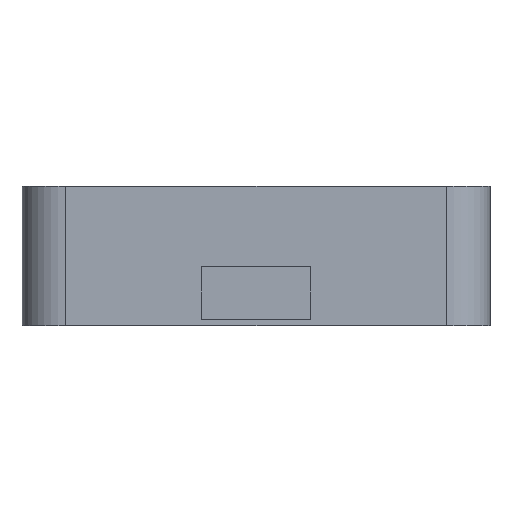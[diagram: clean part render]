
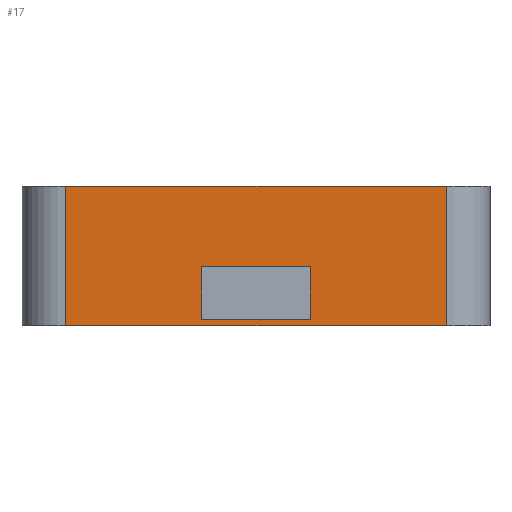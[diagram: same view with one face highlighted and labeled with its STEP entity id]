
A CAD part, left-side view. The second image highlights one B-rep face of the part: STEP entity #17.
In plain terms, the highlighted planar face has unit normal (-1, 0, 0).
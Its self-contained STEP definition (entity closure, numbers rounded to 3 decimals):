
#17 = ADVANCED_FACE('',(#18,#137),#32,.F.);
#18 = FACE_BOUND('',#19,.F.);
#19 = EDGE_LOOP('',(#20,#55,#83,#111));
#20 = ORIENTED_EDGE('',*,*,#21,.F.);
#21 = EDGE_CURVE('',#22,#24,#26,.T.);
#22 = VERTEX_POINT('',#23);
#23 = CARTESIAN_POINT('',(-10.75,-55.25,8.7));
#24 = VERTEX_POINT('',#25);
#25 = CARTESIAN_POINT('',(-10.75,-37.75,8.7));
#26 = SURFACE_CURVE('',#27,(#31,#43),.PCURVE_S1.);
#27 = LINE('',#28,#29);
#28 = CARTESIAN_POINT('',(-10.75,-57.25,8.7));
#29 = VECTOR('',#30,1.);
#30 = DIRECTION('',(0.,1.,0.));
#31 = PCURVE('',#32,#37);
#32 = PLANE('',#33);
#33 = AXIS2_PLACEMENT_3D('',#34,#35,#36);
#34 = CARTESIAN_POINT('',(-10.75,-57.25,2.3));
#35 = DIRECTION('',(1.,0.,0.));
#36 = DIRECTION('',(0.,0.,1.));
#37 = DEFINITIONAL_REPRESENTATION('',(#38),#42);
#38 = LINE('',#39,#40);
#39 = CARTESIAN_POINT('',(6.4,0.));
#40 = VECTOR('',#41,1.);
#41 = DIRECTION('',(0.,-1.));
#42 = ( GEOMETRIC_REPRESENTATION_CONTEXT(2) 
PARAMETRIC_REPRESENTATION_CONTEXT() REPRESENTATION_CONTEXT('2D SPACE',''
  ) );
#43 = PCURVE('',#44,#49);
#44 = PLANE('',#45);
#45 = AXIS2_PLACEMENT_3D('',#46,#47,#48);
#46 = CARTESIAN_POINT('',(-10.75,-57.25,8.7));
#47 = DIRECTION('',(0.,0.,1.));
#48 = DIRECTION('',(1.,0.,0.));
#49 = DEFINITIONAL_REPRESENTATION('',(#50),#54);
#50 = LINE('',#51,#52);
#51 = CARTESIAN_POINT('',(0.,0.));
#52 = VECTOR('',#53,1.);
#53 = DIRECTION('',(0.,1.));
#54 = ( GEOMETRIC_REPRESENTATION_CONTEXT(2) 
PARAMETRIC_REPRESENTATION_CONTEXT() REPRESENTATION_CONTEXT('2D SPACE',''
  ) );
#55 = ORIENTED_EDGE('',*,*,#56,.F.);
#56 = EDGE_CURVE('',#57,#22,#59,.T.);
#57 = VERTEX_POINT('',#58);
#58 = CARTESIAN_POINT('',(-10.75,-55.25,2.3));
#59 = SURFACE_CURVE('',#60,(#64,#71),.PCURVE_S1.);
#60 = LINE('',#61,#62);
#61 = CARTESIAN_POINT('',(-10.75,-55.25,2.3));
#62 = VECTOR('',#63,1.);
#63 = DIRECTION('',(0.,0.,1.));
#64 = PCURVE('',#32,#65);
#65 = DEFINITIONAL_REPRESENTATION('',(#66),#70);
#66 = LINE('',#67,#68);
#67 = CARTESIAN_POINT('',(0.,-2.));
#68 = VECTOR('',#69,1.);
#69 = DIRECTION('',(1.,0.));
#70 = ( GEOMETRIC_REPRESENTATION_CONTEXT(2) 
PARAMETRIC_REPRESENTATION_CONTEXT() REPRESENTATION_CONTEXT('2D SPACE',''
  ) );
#71 = PCURVE('',#72,#77);
#72 = CYLINDRICAL_SURFACE('',#73,2.);
#73 = AXIS2_PLACEMENT_3D('',#74,#75,#76);
#74 = CARTESIAN_POINT('',(-8.75,-55.25,2.3));
#75 = DIRECTION('',(0.,0.,1.));
#76 = DIRECTION('',(-1.,-0.,0.));
#77 = DEFINITIONAL_REPRESENTATION('',(#78),#82);
#78 = LINE('',#79,#80);
#79 = CARTESIAN_POINT('',(0.,0.));
#80 = VECTOR('',#81,1.);
#81 = DIRECTION('',(0.,1.));
#82 = ( GEOMETRIC_REPRESENTATION_CONTEXT(2) 
PARAMETRIC_REPRESENTATION_CONTEXT() REPRESENTATION_CONTEXT('2D SPACE',''
  ) );
#83 = ORIENTED_EDGE('',*,*,#84,.T.);
#84 = EDGE_CURVE('',#57,#85,#87,.T.);
#85 = VERTEX_POINT('',#86);
#86 = CARTESIAN_POINT('',(-10.75,-37.75,2.3));
#87 = SURFACE_CURVE('',#88,(#92,#99),.PCURVE_S1.);
#88 = LINE('',#89,#90);
#89 = CARTESIAN_POINT('',(-10.75,-57.25,2.3));
#90 = VECTOR('',#91,1.);
#91 = DIRECTION('',(0.,1.,0.));
#92 = PCURVE('',#32,#93);
#93 = DEFINITIONAL_REPRESENTATION('',(#94),#98);
#94 = LINE('',#95,#96);
#95 = CARTESIAN_POINT('',(0.,0.));
#96 = VECTOR('',#97,1.);
#97 = DIRECTION('',(0.,-1.));
#98 = ( GEOMETRIC_REPRESENTATION_CONTEXT(2) 
PARAMETRIC_REPRESENTATION_CONTEXT() REPRESENTATION_CONTEXT('2D SPACE',''
  ) );
#99 = PCURVE('',#100,#105);
#100 = PLANE('',#101);
#101 = AXIS2_PLACEMENT_3D('',#102,#103,#104);
#102 = CARTESIAN_POINT('',(-10.75,-57.25,2.3));
#103 = DIRECTION('',(0.,0.,1.));
#104 = DIRECTION('',(1.,0.,0.));
#105 = DEFINITIONAL_REPRESENTATION('',(#106),#110);
#106 = LINE('',#107,#108);
#107 = CARTESIAN_POINT('',(0.,0.));
#108 = VECTOR('',#109,1.);
#109 = DIRECTION('',(0.,1.));
#110 = ( GEOMETRIC_REPRESENTATION_CONTEXT(2) 
PARAMETRIC_REPRESENTATION_CONTEXT() REPRESENTATION_CONTEXT('2D SPACE',''
  ) );
#111 = ORIENTED_EDGE('',*,*,#112,.T.);
#112 = EDGE_CURVE('',#85,#24,#113,.T.);
#113 = SURFACE_CURVE('',#114,(#118,#125),.PCURVE_S1.);
#114 = LINE('',#115,#116);
#115 = CARTESIAN_POINT('',(-10.75,-37.75,2.3));
#116 = VECTOR('',#117,1.);
#117 = DIRECTION('',(0.,0.,1.));
#118 = PCURVE('',#32,#119);
#119 = DEFINITIONAL_REPRESENTATION('',(#120),#124);
#120 = LINE('',#121,#122);
#121 = CARTESIAN_POINT('',(0.,-19.5));
#122 = VECTOR('',#123,1.);
#123 = DIRECTION('',(1.,0.));
#124 = ( GEOMETRIC_REPRESENTATION_CONTEXT(2) 
PARAMETRIC_REPRESENTATION_CONTEXT() REPRESENTATION_CONTEXT('2D SPACE',''
  ) );
#125 = PCURVE('',#126,#131);
#126 = CYLINDRICAL_SURFACE('',#127,2.);
#127 = AXIS2_PLACEMENT_3D('',#128,#129,#130);
#128 = CARTESIAN_POINT('',(-8.75,-37.75,2.3));
#129 = DIRECTION('',(0.,0.,1.));
#130 = DIRECTION('',(-1.,-0.,0.));
#131 = DEFINITIONAL_REPRESENTATION('',(#132),#136);
#132 = LINE('',#133,#134);
#133 = CARTESIAN_POINT('',(-0.,0.));
#134 = VECTOR('',#135,1.);
#135 = DIRECTION('',(-0.,1.));
#136 = ( GEOMETRIC_REPRESENTATION_CONTEXT(2) 
PARAMETRIC_REPRESENTATION_CONTEXT() REPRESENTATION_CONTEXT('2D SPACE',''
  ) );
#137 = FACE_BOUND('',#138,.F.);
#138 = EDGE_LOOP('',(#139,#169,#197,#225));
#139 = ORIENTED_EDGE('',*,*,#140,.T.);
#140 = EDGE_CURVE('',#141,#143,#145,.T.);
#141 = VERTEX_POINT('',#142);
#142 = CARTESIAN_POINT('',(-10.75,-49.,2.6));
#143 = VERTEX_POINT('',#144);
#144 = CARTESIAN_POINT('',(-10.75,-49.,5.));
#145 = SURFACE_CURVE('',#146,(#150,#157),.PCURVE_S1.);
#146 = LINE('',#147,#148);
#147 = CARTESIAN_POINT('',(-10.75,-49.,2.6));
#148 = VECTOR('',#149,1.);
#149 = DIRECTION('',(0.,0.,1.));
#150 = PCURVE('',#32,#151);
#151 = DEFINITIONAL_REPRESENTATION('',(#152),#156);
#152 = LINE('',#153,#154);
#153 = CARTESIAN_POINT('',(0.3,-8.25));
#154 = VECTOR('',#155,1.);
#155 = DIRECTION('',(1.,0.));
#156 = ( GEOMETRIC_REPRESENTATION_CONTEXT(2) 
PARAMETRIC_REPRESENTATION_CONTEXT() REPRESENTATION_CONTEXT('2D SPACE',''
  ) );
#157 = PCURVE('',#158,#163);
#158 = PLANE('',#159);
#159 = AXIS2_PLACEMENT_3D('',#160,#161,#162);
#160 = CARTESIAN_POINT('',(-19.5,-49.,2.6));
#161 = DIRECTION('',(0.,1.,0.));
#162 = DIRECTION('',(0.,0.,1.));
#163 = DEFINITIONAL_REPRESENTATION('',(#164),#168);
#164 = LINE('',#165,#166);
#165 = CARTESIAN_POINT('',(0.,8.75));
#166 = VECTOR('',#167,1.);
#167 = DIRECTION('',(1.,0.));
#168 = ( GEOMETRIC_REPRESENTATION_CONTEXT(2) 
PARAMETRIC_REPRESENTATION_CONTEXT() REPRESENTATION_CONTEXT('2D SPACE',''
  ) );
#169 = ORIENTED_EDGE('',*,*,#170,.T.);
#170 = EDGE_CURVE('',#143,#171,#173,.T.);
#171 = VERTEX_POINT('',#172);
#172 = CARTESIAN_POINT('',(-10.75,-44.,5.));
#173 = SURFACE_CURVE('',#174,(#178,#185),.PCURVE_S1.);
#174 = LINE('',#175,#176);
#175 = CARTESIAN_POINT('',(-10.75,-49.,5.));
#176 = VECTOR('',#177,1.);
#177 = DIRECTION('',(0.,1.,0.));
#178 = PCURVE('',#32,#179);
#179 = DEFINITIONAL_REPRESENTATION('',(#180),#184);
#180 = LINE('',#181,#182);
#181 = CARTESIAN_POINT('',(2.7,-8.25));
#182 = VECTOR('',#183,1.);
#183 = DIRECTION('',(0.,-1.));
#184 = ( GEOMETRIC_REPRESENTATION_CONTEXT(2) 
PARAMETRIC_REPRESENTATION_CONTEXT() REPRESENTATION_CONTEXT('2D SPACE',''
  ) );
#185 = PCURVE('',#186,#191);
#186 = PLANE('',#187);
#187 = AXIS2_PLACEMENT_3D('',#188,#189,#190);
#188 = CARTESIAN_POINT('',(-19.5,-49.,5.));
#189 = DIRECTION('',(0.,0.,1.));
#190 = DIRECTION('',(1.,0.,0.));
#191 = DEFINITIONAL_REPRESENTATION('',(#192),#196);
#192 = LINE('',#193,#194);
#193 = CARTESIAN_POINT('',(8.75,0.));
#194 = VECTOR('',#195,1.);
#195 = DIRECTION('',(0.,1.));
#196 = ( GEOMETRIC_REPRESENTATION_CONTEXT(2) 
PARAMETRIC_REPRESENTATION_CONTEXT() REPRESENTATION_CONTEXT('2D SPACE',''
  ) );
#197 = ORIENTED_EDGE('',*,*,#198,.F.);
#198 = EDGE_CURVE('',#199,#171,#201,.T.);
#199 = VERTEX_POINT('',#200);
#200 = CARTESIAN_POINT('',(-10.75,-44.,2.6));
#201 = SURFACE_CURVE('',#202,(#206,#213),.PCURVE_S1.);
#202 = LINE('',#203,#204);
#203 = CARTESIAN_POINT('',(-10.75,-44.,2.6));
#204 = VECTOR('',#205,1.);
#205 = DIRECTION('',(0.,0.,1.));
#206 = PCURVE('',#32,#207);
#207 = DEFINITIONAL_REPRESENTATION('',(#208),#212);
#208 = LINE('',#209,#210);
#209 = CARTESIAN_POINT('',(0.3,-13.25));
#210 = VECTOR('',#211,1.);
#211 = DIRECTION('',(1.,0.));
#212 = ( GEOMETRIC_REPRESENTATION_CONTEXT(2) 
PARAMETRIC_REPRESENTATION_CONTEXT() REPRESENTATION_CONTEXT('2D SPACE',''
  ) );
#213 = PCURVE('',#214,#219);
#214 = PLANE('',#215);
#215 = AXIS2_PLACEMENT_3D('',#216,#217,#218);
#216 = CARTESIAN_POINT('',(-19.5,-44.,2.6));
#217 = DIRECTION('',(0.,1.,0.));
#218 = DIRECTION('',(0.,0.,1.));
#219 = DEFINITIONAL_REPRESENTATION('',(#220),#224);
#220 = LINE('',#221,#222);
#221 = CARTESIAN_POINT('',(0.,8.75));
#222 = VECTOR('',#223,1.);
#223 = DIRECTION('',(1.,0.));
#224 = ( GEOMETRIC_REPRESENTATION_CONTEXT(2) 
PARAMETRIC_REPRESENTATION_CONTEXT() REPRESENTATION_CONTEXT('2D SPACE',''
  ) );
#225 = ORIENTED_EDGE('',*,*,#226,.F.);
#226 = EDGE_CURVE('',#141,#199,#227,.T.);
#227 = SURFACE_CURVE('',#228,(#232,#239),.PCURVE_S1.);
#228 = LINE('',#229,#230);
#229 = CARTESIAN_POINT('',(-10.75,-49.,2.6));
#230 = VECTOR('',#231,1.);
#231 = DIRECTION('',(0.,1.,0.));
#232 = PCURVE('',#32,#233);
#233 = DEFINITIONAL_REPRESENTATION('',(#234),#238);
#234 = LINE('',#235,#236);
#235 = CARTESIAN_POINT('',(0.3,-8.25));
#236 = VECTOR('',#237,1.);
#237 = DIRECTION('',(0.,-1.));
#238 = ( GEOMETRIC_REPRESENTATION_CONTEXT(2) 
PARAMETRIC_REPRESENTATION_CONTEXT() REPRESENTATION_CONTEXT('2D SPACE',''
  ) );
#239 = PCURVE('',#240,#245);
#240 = PLANE('',#241);
#241 = AXIS2_PLACEMENT_3D('',#242,#243,#244);
#242 = CARTESIAN_POINT('',(-19.5,-49.,2.6));
#243 = DIRECTION('',(0.,0.,1.));
#244 = DIRECTION('',(1.,0.,0.));
#245 = DEFINITIONAL_REPRESENTATION('',(#246),#250);
#246 = LINE('',#247,#248);
#247 = CARTESIAN_POINT('',(8.75,0.));
#248 = VECTOR('',#249,1.);
#249 = DIRECTION('',(0.,1.));
#250 = ( GEOMETRIC_REPRESENTATION_CONTEXT(2) 
PARAMETRIC_REPRESENTATION_CONTEXT() REPRESENTATION_CONTEXT('2D SPACE',''
  ) );
